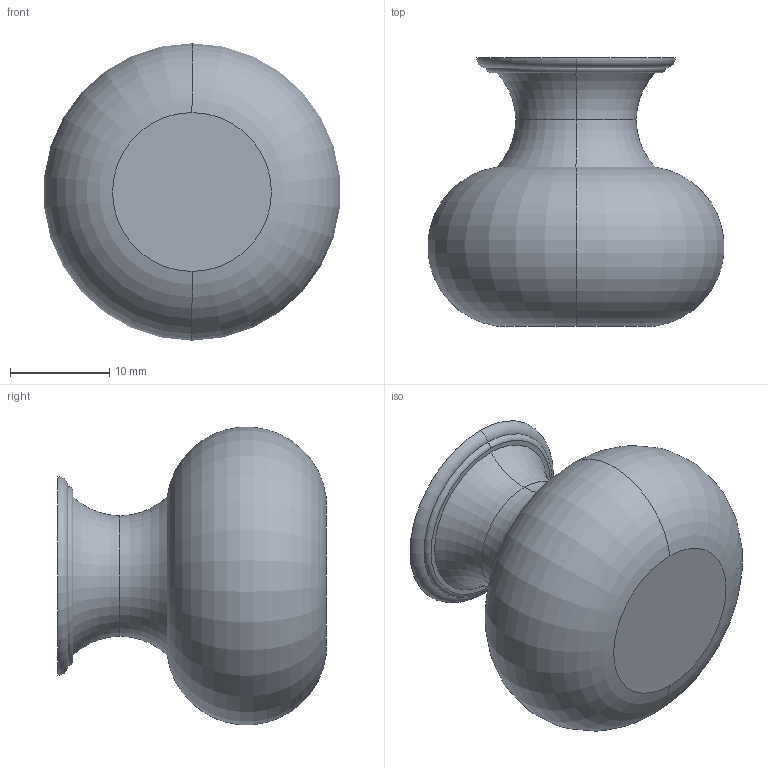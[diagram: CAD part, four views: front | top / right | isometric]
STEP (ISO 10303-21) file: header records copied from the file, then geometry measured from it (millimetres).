
FILE_DESCRIPTION( ( '' ), '1' );
FILE_NAME( 'C:/Documents and Settings/Nikhil/Desktop/Nik/Done/9070581.stp', '2013-10-24T04:16:13', ( '' ), ( '' ), ' ', ' ', ' ' );
FILE_SCHEMA( ( 'automotive_design' ) );
Length unit declared in the file: millimetre
Products named in the file (1): 1
Bounding box: 29.78 x 27 x 29.94 mm (x, y, z)
Volume: 10671.9 mm3; surface area: 3071.5 mm2
Topology: 1 solids, 1 shells, 16 faces, 30 edges, 18 vertices
Faces by surface type: torus 10, plane 4, cylinder 2
Entity records: 806 total; most frequent: DIRECTION 92, STYLED_ITEM 65, PRESENTATION_STYLE_ASSIGNMENT 65, CARTESIAN_POINT 65, COLOUR_RGB 65, ORIENTED_EDGE 60, AXIS2_PLACEMENT_3D 45, EDGE_CURVE 30
